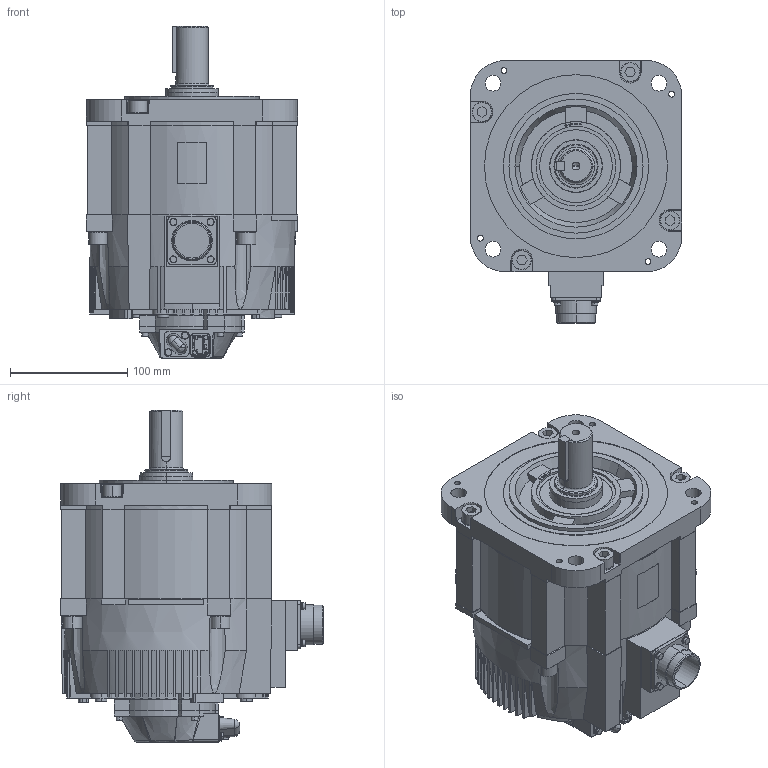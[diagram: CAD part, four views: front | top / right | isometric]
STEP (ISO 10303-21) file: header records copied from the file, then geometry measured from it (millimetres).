
FILE_DESCRIPTION (( 'STEP AP214' ), '1' );
FILE_NAME ('SGM7G-37APK-YR1.STEP', '2021-04-12T16:06:38', ( '' ), ( '' ), 'SwSTEP 2.0', 'SolidWorks 2019', '' );
FILE_SCHEMA (( 'AUTOMOTIVE_DESIGN' ));
Length unit declared in the file: millimetre
Products named in the file (1): SGM7G-37APK-YR1
Bounding box: 180 x 223.85 x 283 mm (x, y, z)
Volume: 4961868.9 mm3; surface area: 260849.2 mm2
Topology: 2 solids, 2 shells, 1130 faces, 2964 edges, 1928 vertices
Faces by surface type: plane 686, cylinder 294, cone 97, bspline 43, sphere 6, torus 4
Entity records: 48084 total; most frequent: CARTESIAN_POINT 8505, ORIENTED_EDGE 5912, DIRECTION 5770, EDGE_CURVE 2956, AXIS2_PLACEMENT_3D 2026, VERTEX_POINT 1928, LINE 1718, VECTOR 1718
